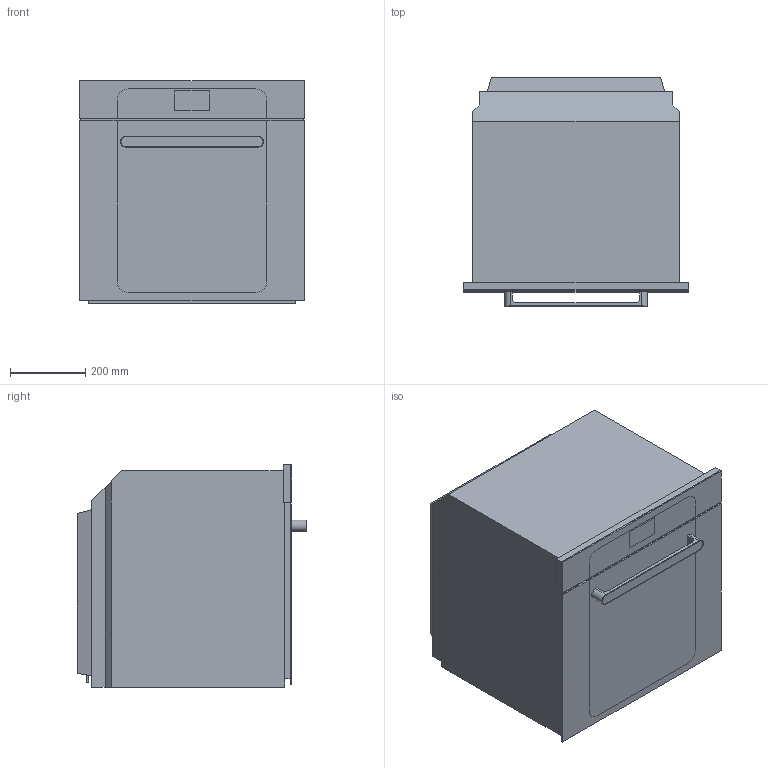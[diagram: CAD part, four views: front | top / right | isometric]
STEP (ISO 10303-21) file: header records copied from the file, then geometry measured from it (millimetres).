
FILE_DESCRIPTION(/* description */ (''),/* implementation_level */ '2;1');
FILE_NAME(/* name */ 'Forno_Musa_60_cm_solo_display.stp',/* time_stamp */ '2026-06-16T11:27:10+02:00',/* author */ (''),/* organization */ (''),/* preprocessor_version */ 'ST-DEVELOPER v20',/* originating_system */ 'SIEMENS PLM Software NX2412.4001',/* authorisation */ '');
FILE_SCHEMA (('AUTOMOTIVE_DESIGN { 1 0 10303 214 3 1 1 1 }'));
Length unit declared in the file: millimetre
Products named in the file (1): Musa60
Bounding box: 597 x 610.65 x 591.84 mm (x, y, z)
Volume: 174129046.8 mm3; surface area: 2681689 mm2
Topology: 8 solids, 8 shells, 105 faces, 256 edges, 170 vertices
Faces by surface type: plane 88, cylinder 17
Full cylindrical faces by diameter (mm): 5 x1
Entity records: 3109 total; most frequent: CARTESIAN_POINT 543, ORIENTED_EDGE 508, DIRECTION 498, EDGE_CURVE 254, LINE 218, VECTOR 218, VERTEX_POINT 169, AXIS2_PLACEMENT_3D 140
